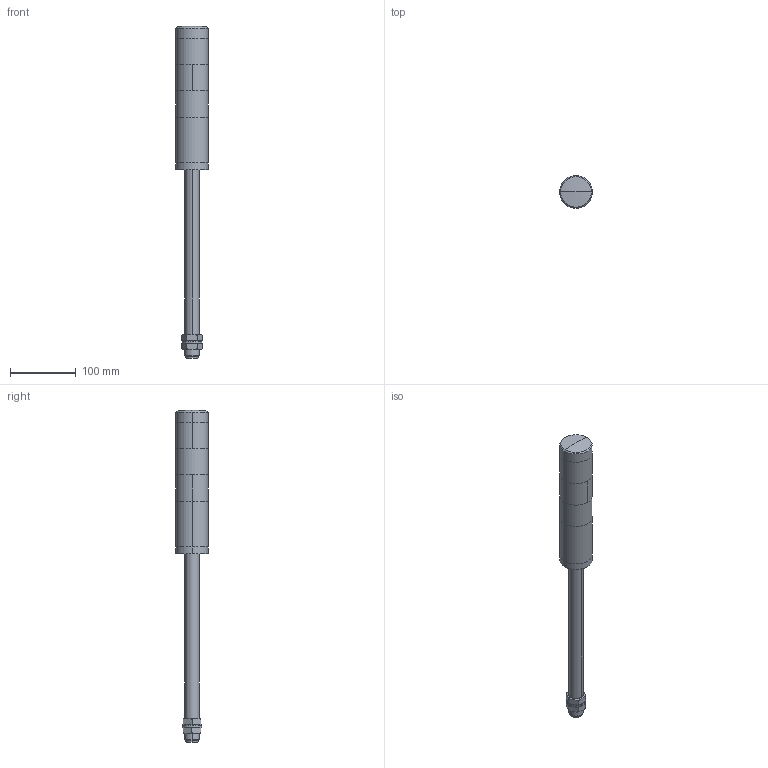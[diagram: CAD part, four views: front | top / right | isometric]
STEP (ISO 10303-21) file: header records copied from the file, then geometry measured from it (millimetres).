
FILE_DESCRIPTION (( 'STEP AP203' ), '1' );
FILE_NAME ('Signal Tower(Long Pole).STEP', '2017-02-23T01:10:56', ( '' ), ( '' ), 'SwSTEP 2.0', 'SolidWorks 2015', '' );
FILE_SCHEMA (( 'CONFIG_CONTROL_DESIGN' ));
Length unit declared in the file: millimetre
Products named in the file (12): M22 Nut2; POLE22-0300AT; Pole Bracket; Body Unit; LED Unit1; LED Unit2; M22 Nut1; LED Unit3; 22S Washer1; Head Cover; 22S Washer2; Signal Tower(Long Pole)
Assembly tree (11 placements, depth 2):
  Signal Tower(Long Pole)
    M22 Nut1
    22S Washer1
    22S Washer2
    M22 Nut2
    POLE22-0300AT
    Pole Bracket
    Body Unit
    LED Unit1
    LED Unit2
    LED Unit3
    Head Cover
Bounding box: 50 x 50 x 506.48 mm (x, y, z)
Volume: 479010.8 mm3; surface area: 121426.1 mm2
Topology: 11 solids, 11 shells, 148 faces, 298 edges, 191 vertices
Faces by surface type: cylinder 76, plane 54, bspline 8, torus 4, cone 4, sphere 2
Entity records: 6372 total; most frequent: CARTESIAN_POINT 1909, DIRECTION 736, ORIENTED_EDGE 596, AXIS2_PLACEMENT_3D 314, EDGE_CURVE 298, VERTEX_POINT 191, EDGE_LOOP 183, CIRCLE 160
